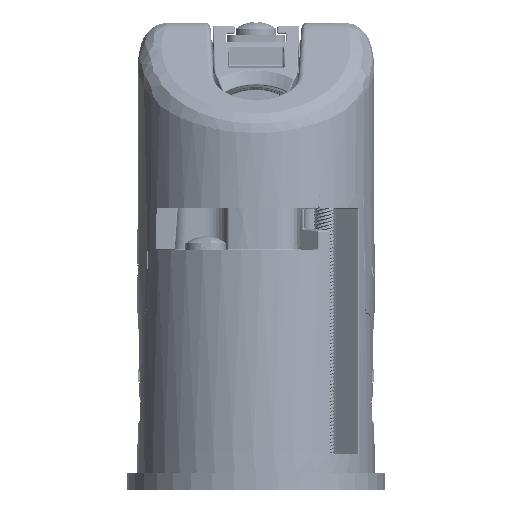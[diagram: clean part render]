
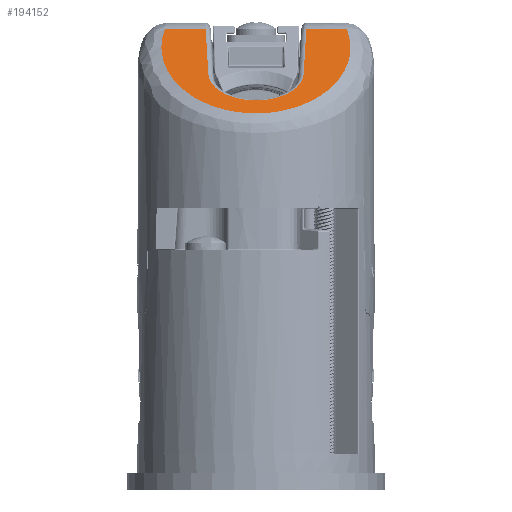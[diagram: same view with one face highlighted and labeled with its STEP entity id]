
A CAD part, top view. The second image highlights one B-rep face of the part: STEP entity #194152.
In plain terms, the highlighted planar face has unit normal (0, 0.819, 0.574) as drawn and (0, 0.819, -0.574) by its records, which use the part's own axes.
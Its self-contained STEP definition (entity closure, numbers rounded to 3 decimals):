
#164292=CARTESIAN_POINT('',(-13.338,44.504,
1.905));
#164742=CARTESIAN_POINT('',(13.338,44.504,
1.905));
#164765=DIRECTION('',(-0.035,0.573,0.819));
#164766=VECTOR('',#164765,11.683);
#164767=CARTESIAN_POINT('',(-6.991,37.807,
-7.659));
#164768=LINE('',#164767,#164766);
#164772=DIRECTION('',(-1.,0.,0.));
#164773=VECTOR('',#164772,5.939);
#164774=CARTESIAN_POINT('',(-7.399,44.504,
1.905));
#164775=LINE('',#164774,#164773);
#164779=CARTESIAN_POINT('',(-13.338,44.504,
1.905));
#164780=CARTESIAN_POINT('',(-13.548,44.003,
1.189));
#164781=CARTESIAN_POINT('',(-13.827,43.041,
-0.185));
#164782=CARTESIAN_POINT('',(-13.937,41.74,
-2.043));
#164783=CARTESIAN_POINT('',(-13.824,40.567,
-3.718));
#164784=CARTESIAN_POINT('',(-13.558,39.547,
-5.176));
#164785=CARTESIAN_POINT('',(-13.193,38.66,
-6.442));
#164786=CARTESIAN_POINT('',(-12.758,37.872,
-7.567));
#164787=CARTESIAN_POINT('',(-12.251,37.143,
-8.608));
#164788=CARTESIAN_POINT('',(-11.655,36.44,
-9.612));
#164789=CARTESIAN_POINT('',(-10.965,35.764,
-10.577));
#164790=CARTESIAN_POINT('',(-10.2,35.136,
-11.475));
#164791=CARTESIAN_POINT('',(-9.366,34.557,
-12.301));
#164792=CARTESIAN_POINT('',(-8.458,34.026,
-13.059));
#164793=CARTESIAN_POINT('',(-7.483,33.549,
-13.742));
#164794=CARTESIAN_POINT('',(-6.452,33.131,
-14.339));
#164795=CARTESIAN_POINT('',(-5.372,32.775,
-14.846));
#164796=CARTESIAN_POINT('',(-4.246,32.484,
-15.261));
#164797=CARTESIAN_POINT('',(-3.08,32.261,
-15.58));
#164798=CARTESIAN_POINT('',(-1.883,32.109,
-15.797));
#164799=CARTESIAN_POINT('',(-0.666,32.031,
-15.909));
#164800=CARTESIAN_POINT('',(0.555,32.027,
-15.914));
#164801=CARTESIAN_POINT('',(1.772,32.099,
-15.812));
#164802=CARTESIAN_POINT('',(2.968,32.244,
-15.605));
#164803=CARTESIAN_POINT('',(4.131,32.459,
-15.297));
#164804=CARTESIAN_POINT('',(5.257,32.742,
-14.894));
#164805=CARTESIAN_POINT('',(6.345,33.092,
-14.394));
#164806=CARTESIAN_POINT('',(7.379,33.503,
-13.807));
#164807=CARTESIAN_POINT('',(8.351,33.97,
-13.14));
#164808=CARTESIAN_POINT('',(9.263,34.493,
-12.393));
#164809=CARTESIAN_POINT('',(10.113,35.07,
-11.568));
#164810=CARTESIAN_POINT('',(10.879,35.688,
-10.686));
#164811=CARTESIAN_POINT('',(11.565,36.344,
-9.749));
#164812=CARTESIAN_POINT('',(12.199,37.072,
-8.71));
#164813=CARTESIAN_POINT('',(12.794,37.916,
-7.504));
#164814=CARTESIAN_POINT('',(13.33,38.929,
-6.058));
#164815=CARTESIAN_POINT('',(13.737,40.105,
-4.378));
#164816=CARTESIAN_POINT('',(13.946,41.474,
-2.423));
#164817=CARTESIAN_POINT('',(13.848,42.983,
-0.269));
#164818=CARTESIAN_POINT('',(13.552,43.993,
1.174));
#164819=CARTESIAN_POINT('',(13.338,44.504,
1.905));
#164824=DIRECTION('',(-1.,0.,0.));
#164825=VECTOR('',#164824,5.939);
#164826=CARTESIAN_POINT('',(13.338,44.504,
1.905));
#164827=LINE('',#164826,#164825);
#164831=DIRECTION('',(-0.035,-0.573,
-0.819));
#164832=VECTOR('',#164831,11.683);
#164833=CARTESIAN_POINT('',(7.399,44.504,
1.905));
#164834=LINE('',#164833,#164832);
#164838=CARTESIAN_POINT('',(0.,37.948,-7.459));
#164839=DIRECTION('',(0.,0.819,-0.574));
#164840=DIRECTION('',(0.999,-0.02,-0.029));
#164841=AXIS2_PLACEMENT_3D('',#164838,#164839,#164840);
#172095=VERTEX_POINT('',#164742);
#172106=VERTEX_POINT('',#164292);
#172265=CARTESIAN_POINT('',(-6.991,37.807,
-7.659));
#172266=CARTESIAN_POINT('',(-7.399,44.504,
1.905));
#172267=VERTEX_POINT('',#172265);
#172268=VERTEX_POINT('',#172266);
#172271=CARTESIAN_POINT('',(6.991,37.807,
-7.659));
#172272=VERTEX_POINT('',#172271);
#172275=CARTESIAN_POINT('',(7.399,44.504,
1.905));
#172276=VERTEX_POINT('',#172275);
#194138=CARTESIAN_POINT('',(-16.832,30.987,-17.4));
#194139=DIRECTION('',(0.,0.819,-0.574));
#194140=DIRECTION('',(0.,0.574,0.819));
#194141=AXIS2_PLACEMENT_3D('',#194138,#194139,#194140);
#194142=PLANE('',#194141);
#194143=ORIENTED_EDGE('',*,*,#193179,.T.);
#194144=ORIENTED_EDGE('',*,*,#193334,.T.);
#194146=ORIENTED_EDGE('',*,*,#194145,.T.);
#194147=ORIENTED_EDGE('',*,*,#194055,.T.);
#194148=ORIENTED_EDGE('',*,*,#193127,.T.);
#194149=ORIENTED_EDGE('',*,*,#193153,.T.);
#194150=EDGE_LOOP('',(#194143,#194144,#194146,#194147,#194148,#194149));
#194151=FACE_OUTER_BOUND('',#194150,.F.);
#164820=B_SPLINE_CURVE_WITH_KNOTS('',3,(#164779,#164780,#164781,#164782,#164783,
#164784,#164785,#164786,#164787,#164788,#164789,#164790,#164791,#164792,#164793,
#164794,#164795,#164796,#164797,#164798,#164799,#164800,#164801,#164802,#164803,
#164804,#164805,#164806,#164807,#164808,#164809,#164810,#164811,#164812,#164813,
#164814,#164815,#164816,#164817,#164818,#164819),.UNSPECIFIED.,.F.,.F.,(4,1,1,1,
1,1,1,1,1,1,1,1,1,1,1,1,1,1,1,1,1,1,1,1,1,1,1,1,1,1,1,1,1,1,1,1,1,1,4),(0.,
0.026,0.053,0.079,0.105,
0.132,0.158,0.184,0.211,
0.237,0.263,0.289,0.316,
0.342,0.368,0.395,0.421,
0.447,0.474,0.5,0.526,0.553,
0.579,0.605,0.632,0.658,
0.684,0.711,0.737,0.763,
0.789,0.816,0.842,0.868,
0.895,0.921,0.947,0.974,1.),
.UNSPECIFIED.);
#164842=CIRCLE('',#164841,6.996);
#193127=EDGE_CURVE('',#172276,#172272,#164834,.T.);
#193153=EDGE_CURVE('',#172272,#172267,#164842,.T.);
#193179=EDGE_CURVE('',#172267,#172268,#164768,.T.);
#193334=EDGE_CURVE('',#172268,#172106,#164775,.T.);
#194055=EDGE_CURVE('',#172095,#172276,#164827,.T.);
#194145=EDGE_CURVE('',#172106,#172095,#164820,.T.);
#194152=ADVANCED_FACE('',(#194151),#194142,.T.);
